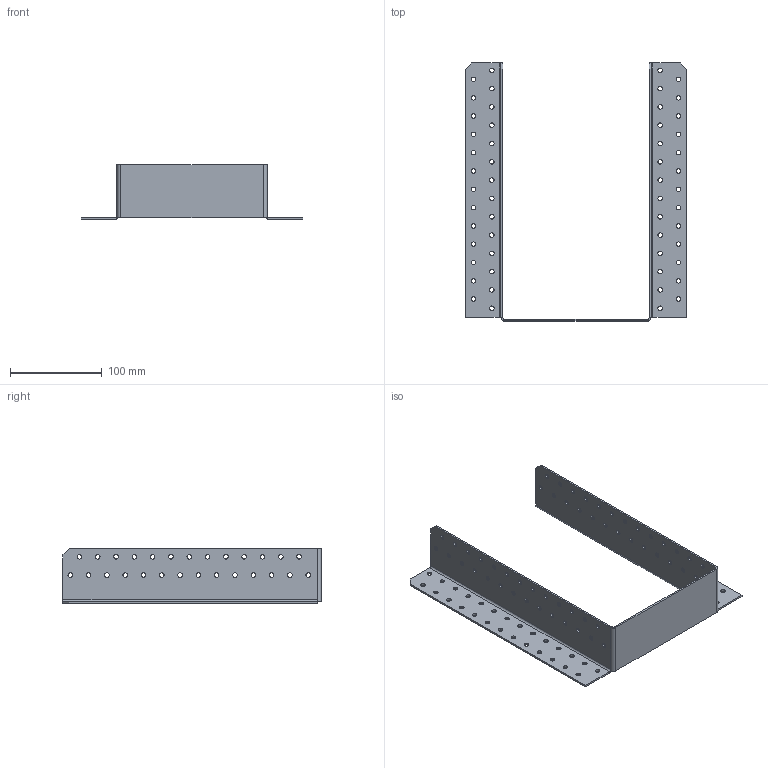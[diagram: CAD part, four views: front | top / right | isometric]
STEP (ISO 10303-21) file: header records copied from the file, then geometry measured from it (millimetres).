
FILE_DESCRIPTION (( 'STEP AP203' ), '1' );
FILE_NAME ('405192.STEP', '2021-04-17T17:21:47', ( '' ), ( '' ), 'SwSTEP 2.0', 'SolidWorks 2013', '' );
FILE_SCHEMA (( 'CONFIG_CONTROL_DESIGN' ));
Length unit declared in the file: millimetre
Products named in the file (1): 405192
Bounding box: 242 x 282 x 60 mm (x, y, z)
Volume: 123408.3 mm3; surface area: 130205.2 mm2
Topology: 1 solids, 1 shells, 260 faces, 744 edges, 486 vertices
Faces by surface type: cylinder 224, plane 36
Entity records: 9227 total; most frequent: DIRECTION 1716, CARTESIAN_POINT 1491, ORIENTED_EDGE 1488, EDGE_CURVE 744, AXIS2_PLACEMENT_3D 711, VERTEX_POINT 486, EDGE_LOOP 476, CIRCLE 450
